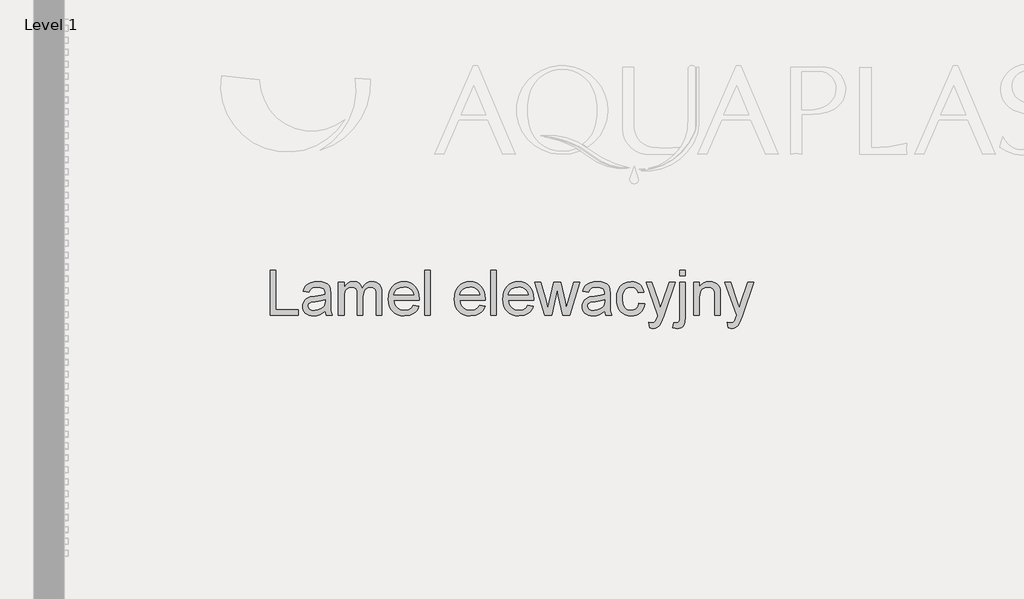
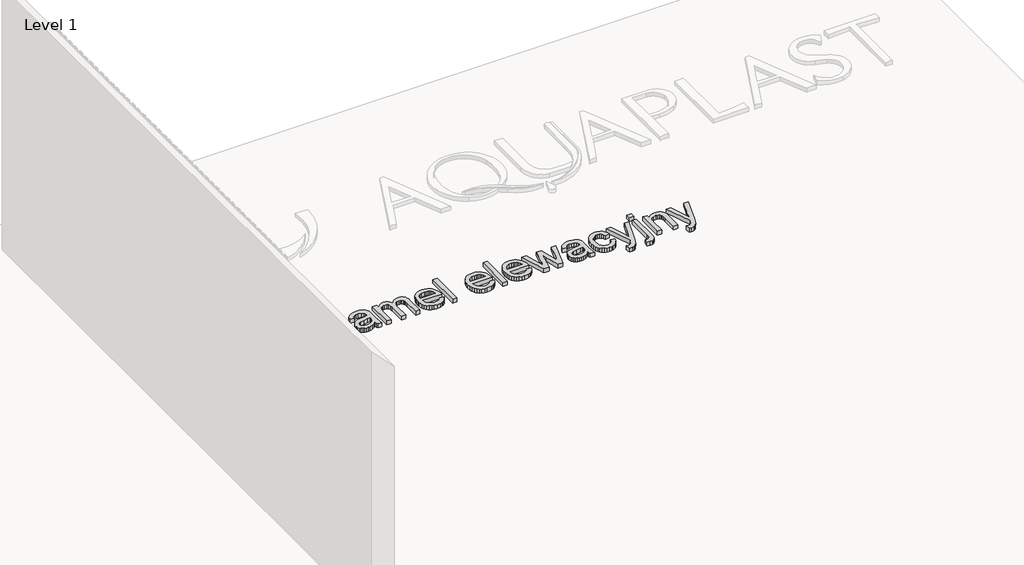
# One storey, part 9 of 9: 1 proxy.
"""IFC4 building model written with IfcOpenShell, lengths in millimetres."""

from ifc_helpers import new_model, si_unit, frame, origin, place, context, project, spatial, polyline, outline, extrude, element, save

model = new_model("IFC4")

# Units and contexts
model_context = context("Model", 3, world=origin())
ifc_project = project(units=[si_unit("LENGTHUNIT", "METRE", prefix="MILLI")], contexts=[model_context])

# Site, building, storey
site = spatial("IfcSite", under=ifc_project)
building = spatial("IfcBuilding", under=site)
storey = spatial("IfcBuildingStorey", under=building, Name="Level 1", Elevation=0.0)

# Proxy
placement = place(None, origin())
element("IfcBuildingElementProxy", 1, Name="400", ObjectType="400", at=placement, inside=storey, context=model_context, shape_type="SweptSolid", body=[
    extrude(outline(polyline([(-309.1043021, 13060.2215643), (-309.1043021, 13462.0468049), (-258.876147, 13462.0468049), (-258.876147, 13110.4497193), (-57.9635267, 13110.4497193), (-57.9635267, 13060.2215643), (-309.1043021, 13060.2215643)])), frame((0.0, 0.0, 600.0), z_axis=(0.0, 0.0, 1.0), x_axis=(1.0, 0.0, 0.0)), (0.0, 0.0, 1.0), 50.0),
    extrude(outline(polyline([(180.6202099, 13097.8926806), (156.6220411, 13077.3158143), (131.9126337, 13063.8513333), (105.9279021, 13056.420117), (78.1037606, 13053.9430449), (55.739601, 13055.432967), (36.1284249, 13059.9027332), (19.2702325, 13067.3523436), (5.1650237, 13077.7817982), (-5.9726037, 13090.5289093), (-13.9280519, 13104.9314894), (-18.7013208, 13120.9895385), (-20.2924104, 13138.7030566), (-17.8889147, 13159.5251775), (-10.6784276, 13178.434312), (0.4438714, 13194.6211198), (14.5828027, 13207.2762605), (31.1988062, 13216.8411923), (49.7523215, 13223.7573738), (93.2114478, 13231.3112175), (144.5677744, 13239.2574686), (180.3259043, 13248.5771458), (180.6202099, 13259.7607584), (177.1621191, 13282.1770347), (166.7878469, 13296.8432636), (143.5867557, 13307.7325706), (111.2621911, 13311.3623396), (81.3411221, 13308.9465812), (60.4454248, 13301.6993059), (46.1961289, 13288.2961385), (36.2142641, 13267.4127039), (-14.013891, 13273.6912233), (-5.2950877, 13301.1597456), (7.7156722, 13322.742156), (26.2323993, 13339.2477949), (51.4691041, 13351.4860026), (82.3344035, 13359.0643717), (117.7369142, 13361.5904947), (151.6924223, 13359.3586773), (178.6091217, 13352.663225), (198.9039451, 13342.595521), (212.9938255, 13330.2469487), (222.3380281, 13314.9798459), (228.3958183, 13296.1565505), (230.848365, 13252.2069148), (230.848365, 13189.7160266), (233.3990135, 13102.4544173), (243.4054037, 13060.2215643), (193.1772487, 13060.2215643), (185.1328957, 13077.6836963), (180.6202099, 13097.8926806)]), holes=[polyline([(180.6202099, 13198.3489907), (146.8731682, 13189.9858067), (99.5880691, 13182.9469978), (56.3741974, 13174.804543), (45.1292711, 13169.2372622), (36.8028752, 13161.5607912), (31.6525273, 13152.3637413), (29.9357447, 13142.2347237), (33.6758783, 13127.2987147), (44.8962791, 13115.060507), (63.3516926, 13106.8935267), (88.7968639, 13104.1711999), (115.7748769, 13107.1755696), (139.6136302, 13116.1886785), (158.9396976, 13129.4692185), (172.3796532, 13145.2758815), (178.3393415, 13161.5607912), (180.3259043, 13184.1242202), (180.6202099, 13198.3489907)])]), frame((0.0, 0.0, 600.0), z_axis=(0.0, 0.0, 1.0), x_axis=(1.0, 0.0, 0.0)), (0.0, 0.0, 1.0), 50.0),
    extrude(outline(polyline([(299.9120782, 13060.2215643), (299.9120782, 13355.3119753), (350.1402333, 13355.3119753), (350.1402333, 13306.751552), (365.2479205, 13329.0574636), (384.6720899, 13346.5318584), (407.7505537, 13357.8258356), (433.8211244, 13361.5904947), (461.7556306, 13357.7522592), (484.1473814, 13346.2375528), (500.8737494, 13327.8066648), (511.8121074, 13303.2198848), (530.120368, 13328.7570266), (551.0038026, 13346.9978422), (574.4624112, 13357.9423316), (600.4961937, 13361.5904947), (620.6040104, 13360.0729815), (638.2531492, 13355.5204418), (653.4436099, 13347.9328756), (666.1753926, 13337.310283), (676.2400308, 13323.5300366), (683.4290582, 13306.4695091), (687.7424746, 13286.1287004), (689.18028, 13262.5076107), (689.18028, 13060.2215643), (638.952125, 13060.2215643), (638.952125, 13240.9252003), (637.7871653, 13265.9779642), (634.2922863, 13282.8637477), (627.7439868, 13294.4275051), (617.4187655, 13303.5141904), (604.1382255, 13309.4003023), (588.7239699, 13311.3623396), (561.512965, 13306.334619), (539.3296807, 13291.2514572), (530.7243077, 13279.6815685), (524.5776127, 13265.0827846), (519.6602567, 13226.7985317), (519.6602567, 13060.2215643), (469.4321016, 13060.2215643), (469.4321016, 13246.5170066), (466.5258338, 13274.9174966), (457.8070305, 13295.1755318), (442.4663513, 13307.3156377), (419.6944558, 13311.3623396), (400.3438629, 13308.6645383), (382.5138488, 13300.5711344), (367.798569, 13287.2783317), (357.7921788, 13268.9823338), (352.0532196, 13243.5984761), (350.1402333, 13209.042094), (350.1402333, 13060.2215643), (299.9120782, 13060.2215643)])), frame((0.0, 0.0, 600.0), z_axis=(0.0, 0.0, 1.0), x_axis=(1.0, 0.0, 0.0)), (0.0, 0.0, 1.0), 50.0),
    extrude(outline(polyline([(971.1250411, 13148.1208356), (1020.3721776, 13141.8423163), (1012.8213996, 13122.1177099), (1002.6280027, 13104.7352857), (989.7919867, 13089.6950434), (974.3133518, 13076.9969832), (956.3515133, 13066.9108852), (936.065887, 13059.7065295), (888.5232705, 13053.9430449), (857.3575341, 13056.429314), (829.5885749, 13063.8881215), (805.2163927, 13076.3194672), (784.2409876, 13093.7233513), (767.3735981, 13115.6153957), (755.3254628, 13141.5112225), (748.0965816, 13171.4108316), (745.6869545, 13205.3142232), (748.121107, 13240.3672459), (755.4235646, 13271.2632022), (767.5943273, 13298.0020918), (784.633395, 13320.583915), (805.5536178, 13338.5242936), (829.3678457, 13351.3388498), (856.0760785, 13359.0275835), (885.6783164, 13361.5904947), (914.3271268, 13359.0337148), (940.2352163, 13351.3633752), (963.4025849, 13338.5794759), (983.8292327, 13320.6820168), (1000.5034841, 13298.1492446), (1012.4136637, 13271.4594059), (1019.5597715, 13240.6125006), (1021.9418074, 13205.6085288), (1021.6475018, 13192.0704713), (795.9151096, 13192.0704713), (798.824443, 13172.027034), (804.6093874, 13154.4729314), (813.2699427, 13139.4081637), (824.8061089, 13126.8327309), (838.580224, 13116.9183111), (853.9546257, 13109.8365827), (889.5042891, 13104.1711999), (916.2370475, 13106.7954248), (938.7514256, 13114.6680995), (957.0474234, 13128.2797334), (971.1250411, 13148.1208356)]), holes=[polyline([(795.9151096, 13242.2986264), (971.7136523, 13242.2986264), (964.9200981, 13268.835181), (951.6027699, 13287.8178919), (937.905297, 13298.1185878), (922.3193631, 13305.4762277), (904.8449683, 13309.8908117), (885.4821127, 13311.3623396), (851.6247064, 13306.6657128), (823.6288865, 13292.5758324), (804.167929, 13270.6132773), (795.9151096, 13242.2986264)])]), frame((0.0, 0.0, 600.0), z_axis=(0.0, 0.0, 1.0), x_axis=(1.0, 0.0, 0.0)), (0.0, 0.0, 1.0), 50.0),
    extrude(outline(polyline([(1072.1699625, 13060.2215643), (1072.1699625, 13462.0468049), (1122.3981175, 13462.0468049), (1122.3981175, 13060.2215643), (1072.1699625, 13060.2215643)])), frame((0.0, 0.0, 600.0), z_axis=(0.0, 0.0, 1.0), x_axis=(1.0, 0.0, 0.0)), (0.0, 0.0, 1.0), 50.0),
    extrude(outline(polyline([(1561.3058633, 13148.1208356), (1610.5529997, 13141.8423163), (1603.0022217, 13122.1177099), (1592.8088248, 13104.7352857), (1579.9728088, 13089.6950434), (1564.4941739, 13076.9969832), (1546.5323355, 13066.9108852), (1526.2467091, 13059.7065295), (1478.7040926, 13053.9430449), (1447.5383563, 13056.429314), (1419.769397, 13063.8881215), (1395.3972148, 13076.3194672), (1374.4218097, 13093.7233513), (1357.5544202, 13115.6153957), (1345.5062849, 13141.5112225), (1338.2774037, 13171.4108316), (1335.8677766, 13205.3142232), (1338.3019292, 13240.3672459), (1345.6043868, 13271.2632022), (1357.7751494, 13298.0020918), (1374.8142172, 13320.583915), (1395.73444, 13338.5242936), (1419.5486678, 13351.3388498), (1446.2569006, 13359.0275835), (1475.8591385, 13361.5904947), (1504.5079489, 13359.0337148), (1530.4160384, 13351.3633752), (1553.583407, 13338.5794759), (1574.0100548, 13320.6820168), (1590.6843063, 13298.1492446), (1602.5944859, 13271.4594059), (1609.7405936, 13240.6125006), (1612.1226295, 13205.6085288), (1611.8283239, 13192.0704713), (1386.0959317, 13192.0704713), (1389.0052651, 13172.027034), (1394.7902095, 13154.4729314), (1403.4507648, 13139.4081637), (1414.986931, 13126.8327309), (1428.7610461, 13116.9183111), (1444.1354478, 13109.8365827), (1479.6851113, 13104.1711999), (1506.4178696, 13106.7954248), (1528.9322477, 13114.6680995), (1547.2282456, 13128.2797334), (1561.3058633, 13148.1208356)]), holes=[polyline([(1386.0959317, 13242.2986264), (1561.8944745, 13242.2986264), (1555.1009203, 13268.835181), (1541.7835921, 13287.8178919), (1528.0861191, 13298.1185878), (1512.5001852, 13305.4762277), (1495.0257905, 13309.8908117), (1475.6629348, 13311.3623396), (1441.8055285, 13306.6657128), (1413.8097087, 13292.5758324), (1394.3487511, 13270.6132773), (1386.0959317, 13242.2986264)])]), frame((0.0, 0.0, 600.0), z_axis=(0.0, 0.0, 1.0), x_axis=(1.0, 0.0, 0.0)), (0.0, 0.0, 1.0), 50.0),
    extrude(outline(polyline([(1662.3507846, 13060.2215643), (1662.3507846, 13462.0468049), (1712.5789397, 13462.0468049), (1712.5789397, 13060.2215643), (1662.3507846, 13060.2215643)])), frame((0.0, 0.0, 600.0), z_axis=(0.0, 0.0, 1.0), x_axis=(1.0, 0.0, 0.0)), (0.0, 0.0, 1.0), 50.0),
    extrude(outline(polyline([(1994.5237008, 13148.1208356), (2043.7708372, 13141.8423163), (2036.2200593, 13122.1177099), (2026.0266623, 13104.7352857), (2013.1906464, 13089.6950434), (1997.7120114, 13076.9969832), (1979.750173, 13066.9108852), (1959.4645466, 13059.7065295), (1911.9219301, 13053.9430449), (1880.7561938, 13056.429314), (1852.9872345, 13063.8881215), (1828.6150523, 13076.3194672), (1807.6396472, 13093.7233513), (1790.7722578, 13115.6153957), (1778.7241224, 13141.5112225), (1771.4952412, 13171.4108316), (1769.0856141, 13205.3142232), (1771.5197667, 13240.3672459), (1778.8222243, 13271.2632022), (1790.9929869, 13298.0020918), (1808.0320547, 13320.583915), (1828.9522775, 13338.5242936), (1852.7665053, 13351.3388498), (1879.4747382, 13359.0275835), (1909.076976, 13361.5904947), (1937.7257864, 13359.0337148), (1963.6338759, 13351.3633752), (1986.8012446, 13338.5794759), (2007.2278923, 13320.6820168), (2023.9021438, 13298.1492446), (2035.8123234, 13271.4594059), (2042.9584311, 13240.6125006), (2045.340467, 13205.6085288), (2045.0461615, 13192.0704713), (1819.3137692, 13192.0704713), (1822.2231027, 13172.027034), (1828.008047, 13154.4729314), (1836.6686023, 13139.4081637), (1848.2047686, 13126.8327309), (1861.9788836, 13116.9183111), (1877.3532853, 13109.8365827), (1912.9029488, 13104.1711999), (1939.6357071, 13106.7954248), (1962.1500852, 13114.6680995), (1980.4460831, 13128.2797334), (1994.5237008, 13148.1208356)]), holes=[polyline([(1819.3137692, 13242.2986264), (1995.112312, 13242.2986264), (1988.3187578, 13268.835181), (1975.0014296, 13287.8178919), (1961.3039566, 13298.1185878), (1945.7180228, 13305.4762277), (1928.243628, 13309.8908117), (1908.8807723, 13311.3623396), (1875.023366, 13306.6657128), (1847.0275462, 13292.5758324), (1827.5665886, 13270.6132773), (1819.3137692, 13242.2986264)])]), frame((0.0, 0.0, 600.0), z_axis=(0.0, 0.0, 1.0), x_axis=(1.0, 0.0, 0.0)), (0.0, 0.0, 1.0), 50.0),
    extrude(outline(polyline([(2144.9138604, 13060.2215643), (2054.7582461, 13355.3119753), (2106.8503366, 13355.3119753), (2157.8633066, 13183.1432016), (2173.0690958, 13121.633332), (2185.5280327, 13180.8868587), (2226.0441031, 13355.3119753), (2285.6900372, 13355.3119753), (2326.2061076, 13181.377368), (2337.2916184, 13127.7156476), (2353.1841206, 13184.320424), (2404.1970906, 13355.3119753), (2456.5834867, 13355.3119753), (2366.1335668, 13060.2215643), (2305.506614, 13060.2215643), (2266.8544791, 13233.2732548), (2255.6708664, 13287.2292807), (2205.9332207, 13060.2215643), (2144.9138604, 13060.2215643)])), frame((0.0, 0.0, 600.0), z_axis=(0.0, 0.0, 1.0), x_axis=(1.0, 0.0, 0.0)), (0.0, 0.0, 1.0), 50.0),
    extrude(outline(polyline([(2679.4709249, 13097.8926806), (2655.472756, 13077.3158143), (2630.7633487, 13063.8513333), (2604.7786171, 13056.420117), (2576.9544755, 13053.9430449), (2554.5903159, 13055.432967), (2534.9791399, 13059.9027332), (2518.1209475, 13067.3523436), (2504.0157386, 13077.7817982), (2492.8781112, 13090.5289093), (2484.9226631, 13104.9314894), (2480.1493942, 13120.9895385), (2478.5583046, 13138.7030566), (2480.9618003, 13159.5251775), (2488.1722874, 13178.434312), (2499.2945864, 13194.6211198), (2513.4335177, 13207.2762605), (2530.0495212, 13216.8411923), (2548.6030365, 13223.7573738), (2592.0621628, 13231.3112175), (2643.4184893, 13239.2574686), (2679.1766193, 13248.5771458), (2679.4709249, 13259.7607584), (2676.0128341, 13282.1770347), (2665.6385618, 13296.8432636), (2642.4374707, 13307.7325706), (2610.112906, 13311.3623396), (2580.1918371, 13308.9465812), (2559.2961398, 13301.6993059), (2545.0468438, 13288.2961385), (2535.064979, 13267.4127039), (2484.836824, 13273.6912233), (2493.5556272, 13301.1597456), (2506.5663871, 13322.742156), (2525.0831142, 13339.2477949), (2550.3198191, 13351.4860026), (2581.1851185, 13359.0643717), (2616.5876292, 13361.5904947), (2650.5431373, 13359.3586773), (2677.4598366, 13352.663225), (2697.75466, 13342.595521), (2711.8445404, 13330.2469487), (2721.1887431, 13314.9798459), (2727.2465333, 13296.1565505), (2729.6990799, 13252.2069148), (2729.6990799, 13189.7160266), (2732.2497284, 13102.4544173), (2742.2561187, 13060.2215643), (2692.0279636, 13060.2215643), (2683.9836107, 13077.6836963), (2679.4709249, 13097.8926806)]), holes=[polyline([(2679.4709249, 13198.3489907), (2645.7238832, 13189.9858067), (2598.4387841, 13182.9469978), (2555.2249124, 13174.804543), (2543.979986, 13169.2372622), (2535.6535902, 13161.5607912), (2530.5032423, 13152.3637413), (2528.7864596, 13142.2347237), (2532.5265933, 13127.2987147), (2543.7469941, 13115.060507), (2562.2024075, 13106.8935267), (2587.6475789, 13104.1711999), (2614.6255919, 13107.1755696), (2638.4643451, 13116.1886785), (2657.7904126, 13129.4692185), (2671.2303682, 13145.2758815), (2677.1900565, 13161.5607912), (2679.1766193, 13184.1242202), (2679.4709249, 13198.3489907)])]), frame((0.0, 0.0, 600.0), z_axis=(0.0, 0.0, 1.0), x_axis=(1.0, 0.0, 0.0)), (0.0, 0.0, 1.0), 50.0),
    extrude(outline(polyline([(2987.1183747, 13166.9563938), (3037.3465298, 13160.6778744), (3031.8834821, 13136.9770769), (3023.3424885, 13116.0047375), (3011.7235488, 13097.7608562), (2997.0266631, 13082.245433), (2979.8710994, 13069.8631382), (2960.8761257, 13061.0186419), (2940.0417421, 13055.7119441), (2917.3679484, 13053.9430449), (2889.1973846, 13056.4109199), (2863.93922, 13063.8145451), (2841.5934545, 13076.1539203), (2822.1600881, 13093.4290457), (2806.4300671, 13115.3149587), (2795.1943378, 13141.486697), (2788.4529003, 13171.9442605), (2786.2057544, 13206.6876493), (2790.0439899, 13251.3853117), (2801.5586963, 13290.1232858), (2820.9338147, 13321.4055181), (2848.3532861, 13343.7359552), (2881.1560974, 13357.1268598), (2916.6812354, 13361.5904947), (2938.9656872, 13360.0576531), (2959.1225549, 13355.4591281), (2977.1518383, 13347.7949199), (2993.0535376, 13337.0650284), (3006.5578725, 13323.5147082), (3017.3950629, 13307.3892141), (3025.5651089, 13288.688546), (3031.0680104, 13267.4127039), (2980.8398553, 13261.1341846), (2971.7286446, 13283.0476887), (2957.5406623, 13298.7562499), (2939.0607234, 13308.2108172), (2917.0736428, 13311.3623396), (2900.0069839, 13309.8111039), (2884.6141881, 13305.1573966), (2870.8952554, 13297.4012179), (2858.8501857, 13286.5425677), (2849.0430649, 13272.3300599), (2842.0379785, 13254.5123086), (2837.8349267, 13233.0893138), (2836.4339095, 13208.0610754), (2841.9153512, 13160.9844427), (2848.7671534, 13143.0471298), (2858.3596764, 13128.8438191), (2870.1656228, 13118.0495482), (2883.6576949, 13110.3393547), (2898.8358929, 13105.7132386), (2915.7002167, 13104.1711999), (2941.7094738, 13108.0216982), (2963.0343667, 13119.5731928), (2978.5467242, 13139.1199895), (2987.1183747, 13166.9563938)])), frame((0.0, 0.0, 600.0), z_axis=(0.0, 0.0, 1.0), x_axis=(1.0, 0.0, 0.0)), (0.0, 0.0, 1.0), 50.0),
    extrude(outline(polyline([(3351.272499, 13411.8186498), (3351.272499, 13462.0468049), (3401.5006541, 13462.0468049), (3401.5006541, 13411.8186498), (3351.272499, 13411.8186498)])), frame((0.0, 0.0, 600.0), z_axis=(0.0, 0.0, 1.0), x_axis=(1.0, 0.0, 0.0)), (0.0, 0.0, 1.0), 50.0),
    extrude(outline(polyline([(3287.9967958, 12947.0120116), (3298.4936954, 12994.78762), (3321.6457356, 12991.157851), (3334.6687583, 12993.6471859), (3343.9148591, 13001.1151904), (3349.433089, 13018.5405342), (3351.272499, 13050.901887), (3351.272499, 13355.3119753), (3401.5006541, 13355.3119753), (3401.5006541, 13044.4271639), (3397.9444614, 12998.3192872), (3387.2758836, 12968.6925239), (3376.7544585, 12956.5462866), (3363.2409266, 12947.8704029), (3346.7352877, 12942.6648727), (3327.237542, 12940.929696), (3287.9967958, 12947.0120116)])), frame((0.0, 0.0, 600.0), z_axis=(0.0, 0.0, 1.0), x_axis=(1.0, 0.0, 0.0)), (0.0, 0.0, 1.0), 50.0),
    extrude(outline(polyline([(3081.2961655, 12947.2082153), (3075.0176461, 12995.572435), (3100.5241311, 12991.157851), (3113.9395612, 12992.5435399), (3124.3628844, 12996.7006064), (3138.9800623, 13012.1516502), (3152.7143235, 13049.1360535), (3156.6383981, 13061.3006848), (3049.9035685, 13355.3119753), (3102.780474, 13355.3119753), (3159.4833522, 13191.3837583), (3179.2018271, 13125.8517122), (3198.9203021, 13183.8299146), (3257.0947082, 13355.3119753), (3309.5792062, 13355.3119753), (3206.8665532, 13053.1582299), (3180.1828458, 12987.6261839), (3166.522161, 12966.7059611), (3151.0465918, 12952.2114105), (3133.0939504, 12943.7501246), (3112.0020493, 12940.929696), (3081.2961655, 12947.2082153)])), frame((0.0, 0.0, 600.0), z_axis=(0.0, 0.0, 1.0), x_axis=(1.0, 0.0, 0.0)), (0.0, 0.0, 1.0), 50.0),
    extrude(outline(polyline([(3476.8428867, 13060.2215643), (3476.8428867, 13355.3119753), (3527.0710418, 13355.3119753), (3527.0710418, 13314.1091919), (3544.5209111, 13334.8822619), (3565.4779221, 13349.720169), (3589.9420747, 13358.6229133), (3617.9133691, 13361.5904947), (3642.6718274, 13359.1992617), (3665.345621, 13352.0255628), (3684.2547556, 13340.9645775), (3697.7192366, 13326.9114853), (3706.8549728, 13309.9030744), (3712.7778729, 13289.976133), (3715.4266233, 13241.4157096), (3715.4266233, 13060.2215643), (3665.1984682, 13060.2215643), (3665.1984682, 13234.6466809), (3663.7514657, 13260.6191498), (3659.4104582, 13279.0868259), (3651.4028934, 13292.318315), (3638.9562192, 13302.5822227), (3623.0024034, 13309.1673104), (3604.4734135, 13311.3623396), (3575.0551167, 13306.4327209), (3549.9778273, 13291.6438647), (3539.9561086, 13279.5712039), (3532.7977381, 13263.0716964), (3528.5027159, 13242.1453422), (3527.0710418, 13216.7921414), (3527.0710418, 13060.2215643), (3476.8428867, 13060.2215643)])), frame((0.0, 0.0, 600.0), z_axis=(0.0, 0.0, 1.0), x_axis=(1.0, 0.0, 0.0)), (0.0, 0.0, 1.0), 50.0),
    extrude(outline(polyline([(3784.4903365, 12947.2082153), (3778.2118171, 12995.572435), (3803.7183021, 12991.157851), (3817.1337322, 12992.5435399), (3827.5570554, 12996.7006064), (3842.1742334, 13012.1516502), (3855.9084945, 13049.1360535), (3859.8325691, 13061.3006848), (3753.0977396, 13355.3119753), (3805.974645, 13355.3119753), (3862.6775232, 13191.3837583), (3882.3959982, 13125.8517122), (3902.1144731, 13183.8299146), (3960.2888793, 13355.3119753), (4012.7733773, 13355.3119753), (3910.0607242, 13053.1582299), (3883.3770168, 12987.6261839), (3869.7163321, 12966.7059611), (3854.2407628, 12952.2114105), (3836.2881214, 12943.7501246), (3815.1962204, 12940.929696), (3784.4903365, 12947.2082153)])), frame((0.0, 0.0, 600.0), z_axis=(0.0, 0.0, 1.0), x_axis=(1.0, 0.0, 0.0)), (0.0, 0.0, 1.0), 50.0),
])

save(model, "model.ifc")
